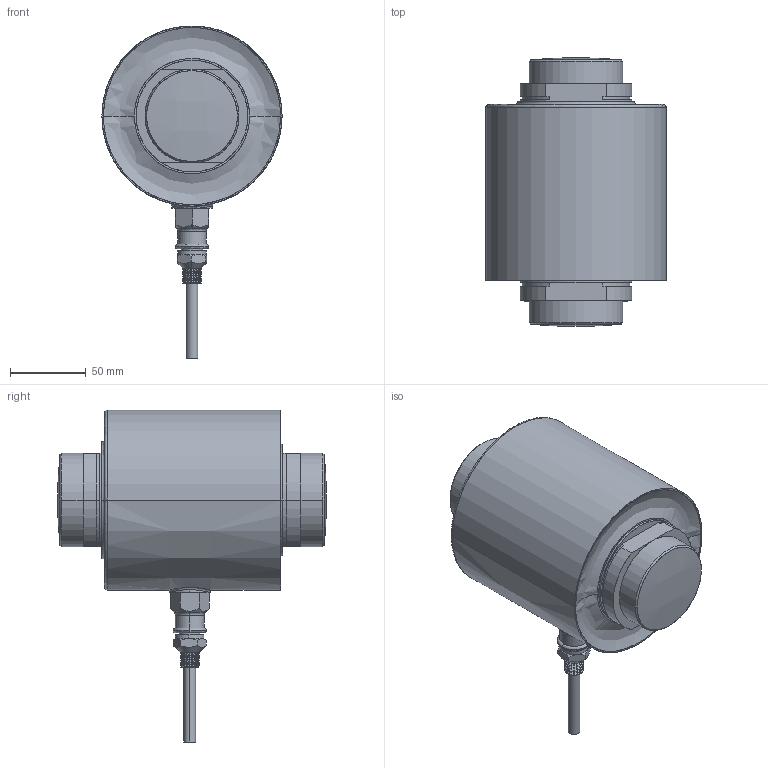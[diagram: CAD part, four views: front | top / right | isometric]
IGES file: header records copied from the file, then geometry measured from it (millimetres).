
Start section: SolidWorks IGES file using analytic representation for surfaces
Global section: file name: C:\0_Work\SolidWorks\0_Load Points\LPRC03 Series\110K - 220K\Load_Sensor_HIRCH03_220KLB.IGS; native system: SolidWorks 2020; preprocessor: SolidWorks 2020; author: vach01; date: 220601.142404; units: millimetre
Bounding box: 119 x 177.3 x 219.32 mm (x, y, z)
Surface area: 87639.7 mm2 (no closed solid volume)
Topology: 0 solids, 0 shells, 183 faces, 2650 edges, 2650 vertices
Faces by surface type: revolution 122, bspline 61
